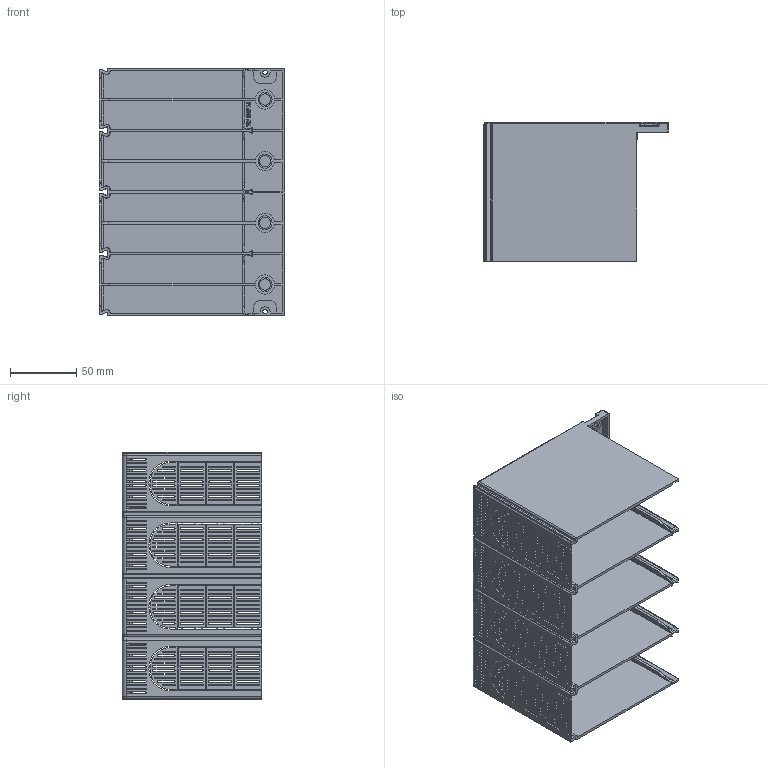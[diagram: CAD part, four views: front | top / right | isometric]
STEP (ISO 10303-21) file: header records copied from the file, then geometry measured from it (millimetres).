
FILE_DESCRIPTION((''),'2;1');
FILE_NAME('U6_4P_LONG_TERMINAL_COVER','2018-06-04T',('HHI'),(''),'PRO/ENGINEER BY PARAMETRIC TECHNOLOGY CORPORATION, 2012453','PRO/ENGINEER BY PARAMETRIC TECHNOLOGY CORPORATION, 2012453','');
FILE_SCHEMA(('CONFIG_CONTROL_DESIGN'));
Products named in the file (1): U6_4P_LONG_TERMINAL_COVER
Bounding box: 139.8 x 105 x 186.5 mm (x, y, z)
Volume: 219071.1 mm3; surface area: 241286.6 mm2
Topology: 1 solids, 1 shells, 2008 faces, 6120 edges, 3952 vertices
Faces by surface type: plane 1067, cylinder 705, extrusion 94, torus 68, bspline 36, cone 22, sphere 16
Entity records: 71004 total; most frequent: CARTESIAN_POINT 14666, ORIENTED_EDGE 12196, DIRECTION 11262, EDGE_CURVE 6098, VECTOR 4282, LINE 4188, VERTEX_POINT 3944, AXIS2_PLACEMENT_3D 3490
